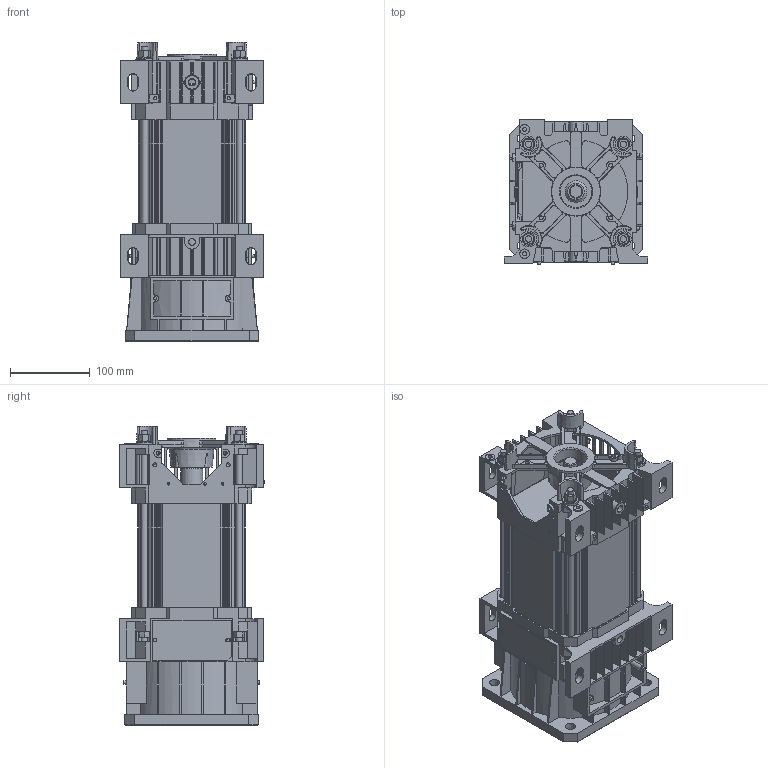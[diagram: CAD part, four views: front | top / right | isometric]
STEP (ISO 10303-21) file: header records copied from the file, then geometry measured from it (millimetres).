
FILE_DESCRIPTION(/* description */ ('Motore Tipo V34 Fl.155 F19-H140 SI Volano NO Piedi'),/* implementation_level */ '2;1');
FILE_NAME(/* name */ 'Y:\ServerTecnico\Mockup Motori x Sito Elmo\Mockup Tipo V34 Size 3 FL155 F19-H140 SI Volano.stp',/* time_stamp */ '2016-10-06T09:21:46+02:00',/* author */ ('aparmini'),/* organization */ (''),/* preprocessor_version */ 'ST-DEVELOPER v16.5',/* originating_system */ 'Autodesk Inventor 2017',/* authorisation */ '');
FILE_SCHEMA (('AUTOMOTIVE_DESIGN { 1 0 10303 214 3 1 1 }'));
Length unit declared in the file: millimetre
Products named in the file (8): Mockup Tipo V34 Size 3 FL155 F19-H140 SI Volano; Mockup CP3XD040N; Mockup CA3VD155N; Mockup Statore Size 3 - F19-H140 SI Volano; TGS10; TI08ML265; UNI 5587 - M8; DIN 125-2 - B 8,4
Assembly tree (20 placements, depth 2):
  Mockup Tipo V34 Size 3 FL155 F19-H140 SI Volano
    Mockup CP3XD040N
    Mockup CA3VD155N
    Mockup Statore Size 3 - F19-H140 SI Volano
    TGS10
    UNI 5587 - M8  x8
    TI08ML265  x4
    DIN 125-2 - B 8,4  x4
Bounding box: 180 x 181 x 375 mm (x, y, z)
Volume: 4092811.1 mm3; surface area: 680437.5 mm2
Topology: 20 solids, 20 shells, 1819 faces, 5040 edges, 3287 vertices
Faces by surface type: plane 1062, cone 378, cylinder 331, bspline 38, torus 10
Full cylindrical faces by diameter (mm): 3.2 x3, 4 x12, 4.917 x4, 5 x2, 6.647 x8, 8 x4, 8.4 x4, 12 x2, 16 x4, 17 x1, 19 x1, 20 x4, 21 x1, 27.5 x1, 30 x1, 31 x1, 32.5 x1, 40 x2, 40.1 x1, 42.5 x1, 46 x1, 72 x1, 145 x1, 153 x1
Entity records: 54681 total; most frequent: CARTESIAN_POINT 11163, ORIENTED_EDGE 9092, DIRECTION 9084, EDGE_CURVE 4546, AXIS2_PLACEMENT_3D 3086, VERTEX_POINT 3045, LINE 2912, VECTOR 2912
